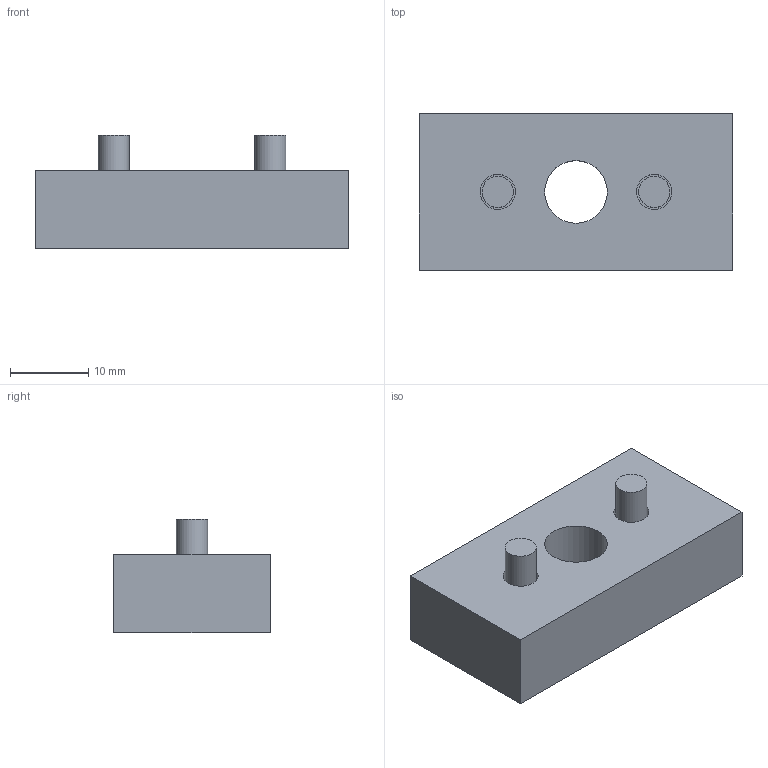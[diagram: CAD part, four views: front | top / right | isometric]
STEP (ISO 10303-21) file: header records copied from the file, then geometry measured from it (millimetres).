
FILE_DESCRIPTION((''),'2;1');
FILE_NAME('C:\Documents and Settings\古川典政\My Documents\Inventor\HP用\MasterData\ACCESSORY\M4\LFA-2040-4.stp','2008-08-05T11:47:29',(''),(''),'Autodesk Inventor 2008','Autodesk Inventor 2008','');
FILE_SCHEMA(('CONFIG_CONTROL_DESIGN'));
Length unit declared in the file: millimetre
Products named in the file (4): LFA-2040-4; LFA-2040-41; LFA-2040-42; LFA-2040-43
Assembly tree (3 placements, depth 2):
  LFA-2040-4
    LFA-2040-41
    LFA-2040-42
    LFA-2040-43
Bounding box: 40 x 20 x 14.5 mm (x, y, z)
Volume: 7429.4 mm3; surface area: 3850 mm2
Topology: 3 solids, 3 shells, 23 faces, 40 edges, 27 vertices
Faces by surface type: plane 13, cylinder 6, bspline 4
Full cylindrical faces by diameter (mm): 4 x2, 4.5 x1, 7 x2, 8 x1
Entity records: 658 total; most frequent: CARTESIAN_POINT 140, DIRECTION 100, ORIENTED_EDGE 60, AXIS2_PLACEMENT_3D 44, EDGE_LOOP 42, EDGE_CURVE 30, VERTEX_POINT 26, FACE_OUTER_BOUND 23
